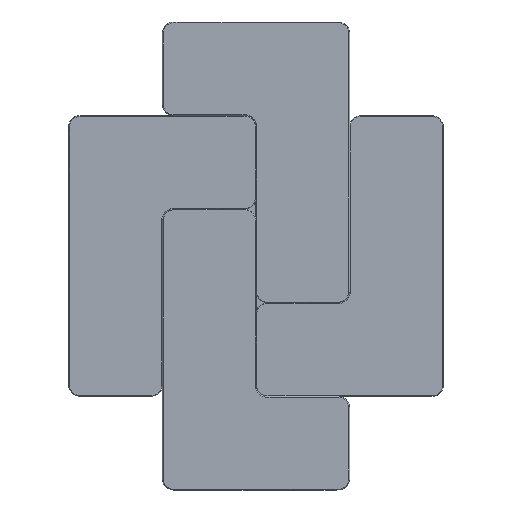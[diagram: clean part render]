
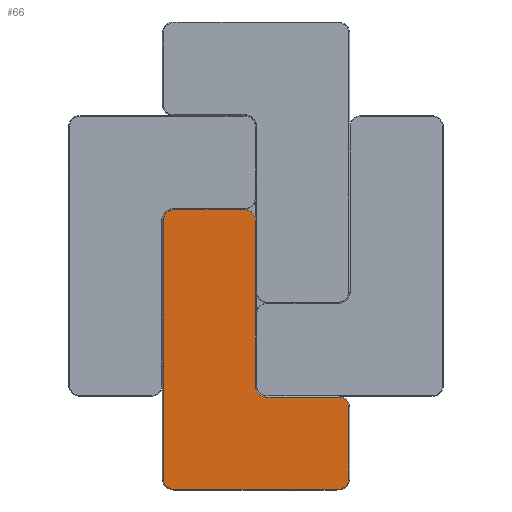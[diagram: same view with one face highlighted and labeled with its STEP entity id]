
A CAD part, top view. The second image highlights one B-rep face of the part: STEP entity #66.
In plain terms, the highlighted planar face has unit normal (0, 0, 1).
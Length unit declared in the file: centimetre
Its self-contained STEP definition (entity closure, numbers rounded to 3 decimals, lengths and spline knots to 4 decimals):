
#66=ADVANCED_FACE($,(#110),#437,.T.);
#110=FACE_OUTER_BOUND($,#154,.T.);
#154=EDGE_LOOP($,(#256,#257));
#256=ORIENTED_EDGE($,*,*,#353,.T.);
#257=ORIENTED_EDGE($,*,*,#359,.T.);
#353=EDGE_CURVE($,#408,#411,#480,.T.);
#359=EDGE_CURVE($,#411,#408,#485,.T.);
#408=VERTEX_POINT($,#1606);
#411=VERTEX_POINT($,#1609);
#437=PLANE($,#631);
#480=B_SPLINE_CURVE_WITH_KNOTS($,3,(#1382,#1383,#1384,#1385,#1386,#1387,
#1388,#1389,#1390,#1391,#1392,#1393,#1394,#1395,#1396,#1397,#1398,#1399,
#1400,#1401,#1402,#1403,#1404,#1405,#1406),.UNSPECIFIED.,.F.,.F.,(4,3,1,
3,3,1,3,3,1,3,4),(0.,23.4,24.5392,25.7561,
35.8561,36.9954,38.2122,48.3122,49.6034,
50.9825,74.3825),.UNSPECIFIED.);
#485=B_SPLINE_CURVE_WITH_KNOTS($,3,(#1443,#1444,#1445,#1446,#1447,#1448,
#1449,#1450,#1451,#1452,#1453,#1454,#1455,#1456,#1457,#1458,#1459,#1460,
#1461),.UNSPECIFIED.,.F.,.F.,(4,1,3,3,1,3,3,1,4),(74.3825,75.5217,
76.7386,86.8386,87.9779,89.1947,125.8947,
127.034,128.2509),.UNSPECIFIED.);
#631=AXIS2_PLACEMENT_3D($,#1485,#652,$);
#652=DIRECTION($,(0.,0.,1.));
#1382=CARTESIAN_POINT($,(14.9,0.1,0.1));
#1383=CARTESIAN_POINT($,(22.7,0.1,0.1));
#1384=CARTESIAN_POINT($,(30.5,0.1,0.1));
#1385=CARTESIAN_POINT($,(38.3,0.1,0.1));
#1386=CARTESIAN_POINT($,(38.6799,0.0977,0.1));
#1387=CARTESIAN_POINT($,(39.4621,0.4142,0.1));
#1388=CARTESIAN_POINT($,(39.8031,1.1936,0.1));
#1389=CARTESIAN_POINT($,(39.8,1.6,0.1));
#1390=CARTESIAN_POINT($,(39.8,4.9667,0.1));
#1391=CARTESIAN_POINT($,(39.8,8.3334,0.1));
#1392=CARTESIAN_POINT($,(39.8,11.7,0.1));
#1393=CARTESIAN_POINT($,(39.8023,12.08,0.1));
#1394=CARTESIAN_POINT($,(39.4859,12.8621,0.1));
#1395=CARTESIAN_POINT($,(38.7064,13.2031,0.1));
#1396=CARTESIAN_POINT($,(38.3,13.2,0.1));
#1397=CARTESIAN_POINT($,(34.9333,13.2,0.1));
#1398=CARTESIAN_POINT($,(31.5667,13.2,0.1));
#1399=CARTESIAN_POINT($,(28.2,13.2,0.1));
#1400=CARTESIAN_POINT($,(27.7694,13.1974,0.1));
#1401=CARTESIAN_POINT($,(26.883,13.556,0.1));
#1402=CARTESIAN_POINT($,(26.4965,14.4394,0.1));
#1403=CARTESIAN_POINT($,(26.5,14.9,0.1));
#1404=CARTESIAN_POINT($,(26.5,22.7,0.1));
#1405=CARTESIAN_POINT($,(26.5,30.5,0.1));
#1406=CARTESIAN_POINT($,(26.5,38.3,0.1));
#1443=CARTESIAN_POINT($,(26.5,38.3,0.1));
#1444=CARTESIAN_POINT($,(26.5023,38.68,0.1));
#1445=CARTESIAN_POINT($,(26.1859,39.4621,0.1));
#1446=CARTESIAN_POINT($,(25.4064,39.8031,0.1));
#1447=CARTESIAN_POINT($,(25.,39.8,0.1));
#1448=CARTESIAN_POINT($,(21.6333,39.8,0.1));
#1449=CARTESIAN_POINT($,(18.2667,39.8,0.1));
#1450=CARTESIAN_POINT($,(14.9,39.8,0.1));
#1451=CARTESIAN_POINT($,(14.5201,39.8023,0.1));
#1452=CARTESIAN_POINT($,(13.7379,39.4859,0.1));
#1453=CARTESIAN_POINT($,(13.3969,38.7064,0.1));
#1454=CARTESIAN_POINT($,(13.4,38.3,0.1));
#1455=CARTESIAN_POINT($,(13.4,26.0667,0.1));
#1456=CARTESIAN_POINT($,(13.4,13.8334,0.1));
#1457=CARTESIAN_POINT($,(13.4,1.6,0.1));
#1458=CARTESIAN_POINT($,(13.3977,1.2201,0.1));
#1459=CARTESIAN_POINT($,(13.7141,0.4379,0.1));
#1460=CARTESIAN_POINT($,(14.4936,0.0969,0.1));
#1461=CARTESIAN_POINT($,(14.9,0.1,0.1));
#1485=CARTESIAN_POINT($,(13.3,39.9,0.1));
#1606=CARTESIAN_POINT($,(14.9,0.1,0.1));
#1609=CARTESIAN_POINT($,(26.5,38.3,0.1));
